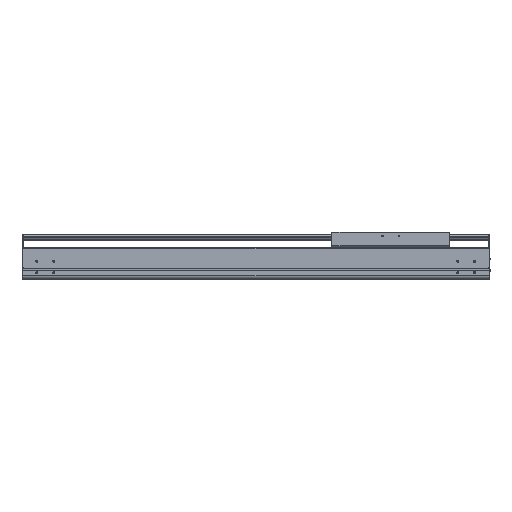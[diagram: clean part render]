
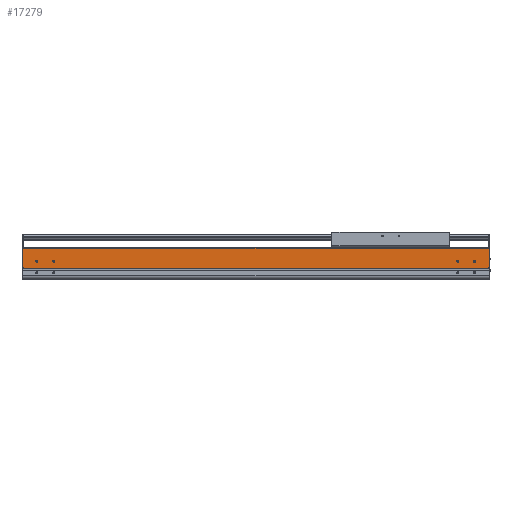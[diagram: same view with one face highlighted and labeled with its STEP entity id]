
A CAD part, top view. The second image highlights one B-rep face of the part: STEP entity #17279.
In plain terms, the highlighted planar face has unit normal (0, 0, 1).
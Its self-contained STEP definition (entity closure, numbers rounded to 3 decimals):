
#1932=DIRECTION('',(1.,0.,0.));
#1933=VECTOR('',#1932,2.);
#1934=CARTESIAN_POINT('',(0.,34.65,107.));
#1935=LINE('',#1934,#1933);
#1940=CARTESIAN_POINT('',(-42.,54.,107.));
#1941=DIRECTION('',(0.,0.,-1.));
#1942=DIRECTION('',(1.,0.,0.));
#1943=AXIS2_PLACEMENT_3D('',#1940,#1941,#1942);
#1945=CARTESIAN_POINT('',(-42.,54.,107.));
#1946=DIRECTION('',(0.,0.,-1.));
#1947=DIRECTION('',(-1.,0.,0.));
#1948=AXIS2_PLACEMENT_3D('',#1945,#1946,#1947);
#1950=CARTESIAN_POINT('',(-92.,54.,107.));
#1951=DIRECTION('',(0.,0.,-1.));
#1952=DIRECTION('',(1.,0.,0.));
#1953=AXIS2_PLACEMENT_3D('',#1950,#1951,#1952);
#1955=CARTESIAN_POINT('',(-92.,54.,107.));
#1956=DIRECTION('',(0.,0.,-1.));
#1957=DIRECTION('',(-1.,0.,0.));
#1958=AXIS2_PLACEMENT_3D('',#1955,#1956,#1957);
#1960=CARTESIAN_POINT('',(-1344.,54.,107.));
#1961=DIRECTION('',(0.,0.,-1.));
#1962=DIRECTION('',(1.,0.,0.));
#1963=AXIS2_PLACEMENT_3D('',#1960,#1961,#1962);
#1965=CARTESIAN_POINT('',(-1344.,54.,107.));
#1966=DIRECTION('',(0.,0.,-1.));
#1967=DIRECTION('',(-1.,0.,0.));
#1968=AXIS2_PLACEMENT_3D('',#1965,#1966,#1967);
#1970=CARTESIAN_POINT('',(-1294.,54.,107.));
#1971=DIRECTION('',(0.,0.,-1.));
#1972=DIRECTION('',(1.,0.,0.));
#1973=AXIS2_PLACEMENT_3D('',#1970,#1971,#1972);
#1975=CARTESIAN_POINT('',(-1294.,54.,107.));
#1976=DIRECTION('',(0.,0.,-1.));
#1977=DIRECTION('',(-1.,0.,0.));
#1978=AXIS2_PLACEMENT_3D('',#1975,#1976,#1977);
#1980=DIRECTION('',(0.,-1.,0.));
#1981=VECTOR('',#1980,2.55);
#1982=CARTESIAN_POINT('',(-1384.,34.65,107.));
#1983=LINE('',#1982,#1981);
#1984=DIRECTION('',(0.,-1.,0.));
#1985=VECTOR('',#1984,58.85);
#1986=CARTESIAN_POINT('',(-1386.,93.5,107.));
#1987=LINE('',#1986,#1985);
#1988=DIRECTION('',(0.,1.,0.));
#1989=VECTOR('',#1988,58.85);
#1990=CARTESIAN_POINT('',(2.,34.65,107.));
#1991=LINE('',#1990,#1989);
#1992=DIRECTION('',(0.,1.,0.));
#1993=VECTOR('',#1992,2.55);
#1994=CARTESIAN_POINT('',(0.,32.1,107.));
#1995=LINE('',#1994,#1993);
#2104=DIRECTION('',(1.,0.,0.));
#2105=VECTOR('',#2104,2.);
#2106=CARTESIAN_POINT('',(-1386.,34.65,107.));
#2107=LINE('',#2106,#2105);
#2116=DIRECTION('',(-1.,0.,0.));
#2117=VECTOR('',#2116,1388.);
#2118=CARTESIAN_POINT('',(2.,93.5,107.));
#2119=LINE('',#2118,#2117);
#10402=DIRECTION('',(1.,0.,0.));
#10403=VECTOR('',#10402,1384.);
#10404=CARTESIAN_POINT('',(-1384.,32.1,107.));
#10405=LINE('',#10404,#10403);
#11621=CARTESIAN_POINT('',(-1386.,34.65,107.));
#11622=VERTEX_POINT('',#11621);
#11623=CARTESIAN_POINT('',(-1386.,93.5,107.));
#11624=VERTEX_POINT('',#11623);
#11845=CARTESIAN_POINT('',(-1384.,32.1,107.));
#11846=VERTEX_POINT('',#11845);
#11917=CARTESIAN_POINT('',(0.,32.1,107.));
#11918=VERTEX_POINT('',#11917);
#12321=CARTESIAN_POINT('',(-39.5,54.,107.));
#12322=CARTESIAN_POINT('',(-44.5,54.,107.));
#12323=VERTEX_POINT('',#12321);
#12324=VERTEX_POINT('',#12322);
#12325=CARTESIAN_POINT('',(-89.5,54.,107.));
#12326=CARTESIAN_POINT('',(-94.5,54.,107.));
#12327=VERTEX_POINT('',#12325);
#12328=VERTEX_POINT('',#12326);
#12329=CARTESIAN_POINT('',(-1341.5,54.,107.));
#12330=CARTESIAN_POINT('',(-1346.5,54.,107.));
#12331=VERTEX_POINT('',#12329);
#12332=VERTEX_POINT('',#12330);
#12333=CARTESIAN_POINT('',(-1291.5,54.,107.));
#12334=CARTESIAN_POINT('',(-1296.5,54.,107.));
#12335=VERTEX_POINT('',#12333);
#12336=VERTEX_POINT('',#12334);
#13428=CARTESIAN_POINT('',(2.,34.65,107.));
#13429=VERTEX_POINT('',#13428);
#13430=CARTESIAN_POINT('',(2.,93.5,107.));
#13431=VERTEX_POINT('',#13430);
#13650=CARTESIAN_POINT('',(0.,34.65,107.));
#13651=VERTEX_POINT('',#13650);
#13962=CARTESIAN_POINT('',(-1384.,34.65,107.));
#13963=VERTEX_POINT('',#13962);
#17237=CARTESIAN_POINT('',(-692.,62.8,107.));
#17238=DIRECTION('',(0.,0.,1.));
#17239=DIRECTION('',(0.,-1.,0.));
#17240=AXIS2_PLACEMENT_3D('',#17237,#17238,#17239);
#17241=PLANE('',#17240);
#17242=ORIENTED_EDGE('',*,*,#14753,.F.);
#17244=ORIENTED_EDGE('',*,*,#17243,.F.);
#17245=ORIENTED_EDGE('',*,*,#15836,.F.);
#17247=ORIENTED_EDGE('',*,*,#17246,.F.);
#17248=ORIENTED_EDGE('',*,*,#17035,.F.);
#17249=ORIENTED_EDGE('',*,*,#17230,.F.);
#17250=ORIENTED_EDGE('',*,*,#15360,.F.);
#17252=ORIENTED_EDGE('',*,*,#17251,.F.);
#17253=EDGE_LOOP('',(#17242,#17244,#17245,#17247,#17248,#17249,#17250,#17252));
#17254=FACE_OUTER_BOUND('',#17253,.F.);
#17256=ORIENTED_EDGE('',*,*,#17255,.F.);
#17258=ORIENTED_EDGE('',*,*,#17257,.F.);
#17259=EDGE_LOOP('',(#17256,#17258));
#17260=FACE_BOUND('',#17259,.F.);
#17262=ORIENTED_EDGE('',*,*,#17261,.F.);
#17264=ORIENTED_EDGE('',*,*,#17263,.F.);
#17265=EDGE_LOOP('',(#17262,#17264));
#17266=FACE_BOUND('',#17265,.F.);
#17268=ORIENTED_EDGE('',*,*,#17267,.F.);
#17270=ORIENTED_EDGE('',*,*,#17269,.F.);
#17271=EDGE_LOOP('',(#17268,#17270));
#17272=FACE_BOUND('',#17271,.F.);
#17274=ORIENTED_EDGE('',*,*,#17273,.F.);
#17276=ORIENTED_EDGE('',*,*,#17275,.F.);
#17277=EDGE_LOOP('',(#17274,#17276));
#17278=FACE_BOUND('',#17277,.F.);
#17279=ADVANCED_FACE('',(#17254,#17260,#17266,#17272,#17278),#17241,.T.);
#1944=CIRCLE('',#1943,2.5);
#1949=CIRCLE('',#1948,2.5);
#1954=CIRCLE('',#1953,2.5);
#1959=CIRCLE('',#1958,2.5);
#1964=CIRCLE('',#1963,2.5);
#1969=CIRCLE('',#1968,2.5);
#1974=CIRCLE('',#1973,2.5);
#1979=CIRCLE('',#1978,2.5);
#14753=EDGE_CURVE('',#13963,#11846,#1983,.T.);
#15360=EDGE_CURVE('',#11918,#13651,#1995,.T.);
#15836=EDGE_CURVE('',#11624,#11622,#1987,.T.);
#17035=EDGE_CURVE('',#13429,#13431,#1991,.T.);
#17230=EDGE_CURVE('',#13651,#13429,#1935,.T.);
#17243=EDGE_CURVE('',#11622,#13963,#2107,.T.);
#17246=EDGE_CURVE('',#13431,#11624,#2119,.T.);
#17251=EDGE_CURVE('',#11846,#11918,#10405,.T.);
#17255=EDGE_CURVE('',#12327,#12328,#1954,.T.);
#17257=EDGE_CURVE('',#12328,#12327,#1959,.T.);
#17261=EDGE_CURVE('',#12331,#12332,#1964,.T.);
#17263=EDGE_CURVE('',#12332,#12331,#1969,.T.);
#17267=EDGE_CURVE('',#12335,#12336,#1974,.T.);
#17269=EDGE_CURVE('',#12336,#12335,#1979,.T.);
#17273=EDGE_CURVE('',#12323,#12324,#1944,.T.);
#17275=EDGE_CURVE('',#12324,#12323,#1949,.T.);
